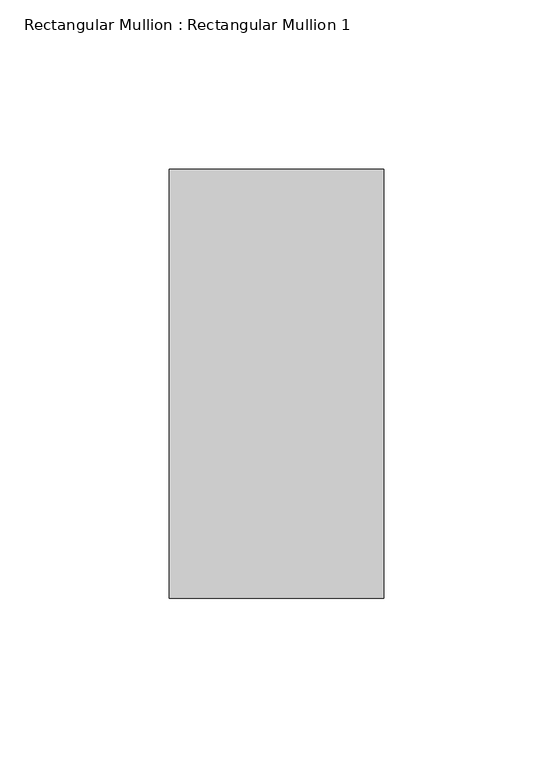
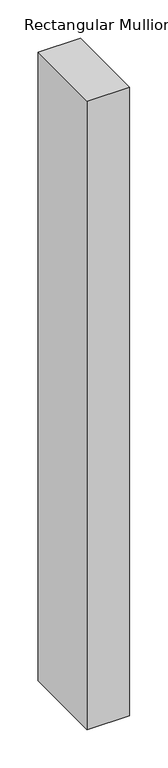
"""IFC4 building model written with IfcOpenShell, lengths in millimetres: member geometry, Rectangular Mullion : Rectangular Mullion 1."""

from ifc_helpers import new_model, si_unit, frame, origin, place, context, project, spatial, polyline, outline, extrude, source, transform, mapped, element, save


def rectangular_mullion_rectangular_mullion_1_73fada49(model_context):
    return source(origin(), model_context, "Body", "SweptSolid", [
        extrude(outline(polyline([(31.75, 63.5), (31.75, -63.5), (-31.75, -63.5), (-31.75, 63.5), (31.75, 63.5)])), frame((0.0, 0.0, -996.95), z_axis=(0.0, 0.0, 1.0), x_axis=(1.0, 0.0, 0.0)), (0.0, 0.0, 1.0), 996.95),
    ])


if __name__ == "__main__":
    model = new_model("IFC4")
    model_context = context("Model", 3, world=origin())
    ifc_project = project(units=[si_unit("LENGTHUNIT", "METRE", prefix="MILLI")], contexts=[model_context])
    site = spatial("IfcSite", under=ifc_project)
    building = spatial("IfcBuilding", under=site)
    placement = place(None, origin())
    rectangular_mullion_rectangular_mullion_1_shape = rectangular_mullion_rectangular_mullion_1_73fada49(model_context)
    element("IfcMember", 1, ObjectType="Rectangular Mullion : Rectangular Mullion 1", at=placement, inside=building, context=model_context, shape_type="MappedRepresentation", body=[
        mapped(rectangular_mullion_rectangular_mullion_1_shape, transform((0.0, 0.0, 0.0), x_axis=(1.0, 0.0, 0.0), y_axis=(0.0, 1.0, 0.0), z_axis=(0.0, 0.0, 1.0))),
    ])
    save(model, "model.ifc")
